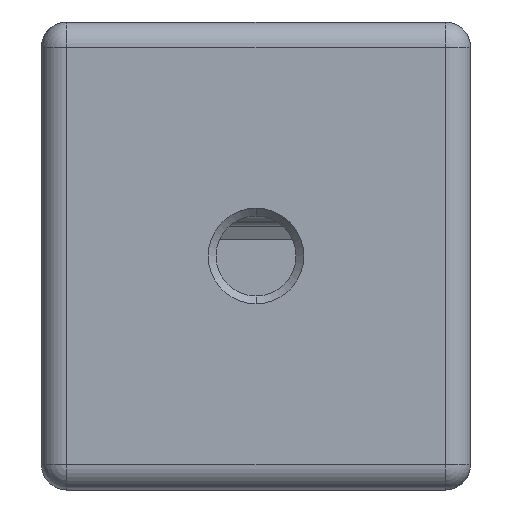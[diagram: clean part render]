
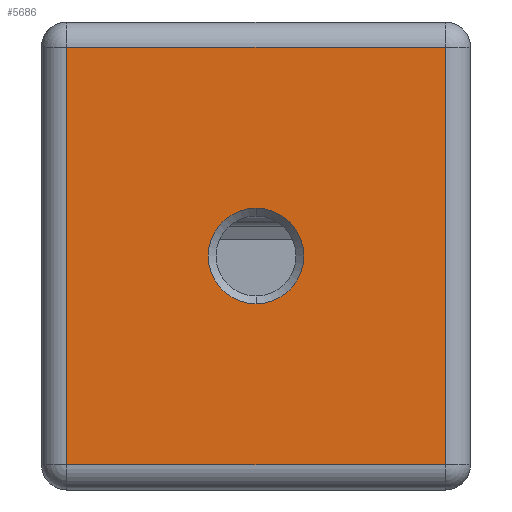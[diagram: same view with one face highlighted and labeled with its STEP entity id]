
A CAD part, front view. The second image highlights one B-rep face of the part: STEP entity #5686.
In plain terms, the highlighted planar face has unit normal (0, -1, 0).
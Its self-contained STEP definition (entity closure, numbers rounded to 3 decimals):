
#209 = DIRECTION ( 'NONE',  ( 0., 0., -1. ) ) ;
#210 = DIRECTION ( 'NONE',  ( 0., 1., 0. ) ) ;
#211 = CARTESIAN_POINT ( 'NONE',  ( -180.891, -628.375, 3.25 ) ) ;
#214 = DIRECTION ( 'NONE',  ( 0., 0., -1. ) ) ;
#215 = CARTESIAN_POINT ( 'NONE',  ( -229.391, -628.375, -56.75 ) ) ;
#216 = DIRECTION ( 'NONE',  ( -1., 0., 0. ) ) ;
#218 = CARTESIAN_POINT ( 'NONE',  ( -356.825, -628.375, 56.75 ) ) ;
#222 = DIRECTION ( 'NONE',  ( 0., 0., 1. ) ) ;
#223 = CARTESIAN_POINT ( 'NONE',  ( -132.391, -628.375, 63.25 ) ) ;
#227 = DIRECTION ( 'NONE',  ( 1., 0., 0. ) ) ;
#229 = CARTESIAN_POINT ( 'NONE',  ( -356.825, -628.375, -50.25 ) ) ;
#290 = DIRECTION ( 'NONE',  ( 0., 0., -1. ) ) ;
#291 = DIRECTION ( 'NONE',  ( 0., 1., 0. ) ) ;
#292 = CARTESIAN_POINT ( 'NONE',  ( -180.891, -628.375, 3.25 ) ) ;
#490 = CARTESIAN_POINT ( 'NONE',  ( -132.391, -628.375, -50.25 ) ) ;
#516 = CARTESIAN_POINT ( 'NONE',  ( -180.891, -628.375, -9. ) ) ;
#524 = CARTESIAN_POINT ( 'NONE',  ( -180.891, -628.375, 15.5 ) ) ;
#1082 = CARTESIAN_POINT ( 'NONE',  ( -229.391, -628.375, -50.25 ) ) ;
#1268 = CARTESIAN_POINT ( 'NONE',  ( -229.391, -628.375, 56.75 ) ) ;
#1577 = EDGE_LOOP ( 'NONE', ( #19646, #19643, #19642, #19623 ) ) ;
#1878 = EDGE_LOOP ( 'NONE', ( #19645, #19644 ) ) ;
#2309 = VERTEX_POINT ( 'NONE', #1268 ) ;
#2327 = VERTEX_POINT ( 'NONE', #1082 ) ;
#2437 = VERTEX_POINT ( 'NONE', #490 ) ;
#2454 = VERTEX_POINT ( 'NONE', #516 ) ;
#2493 = VERTEX_POINT ( 'NONE', #524 ) ;
#2894 = EDGE_CURVE ( 'NONE', #2454, #2493, #20039, .T. ) ;
#2914 = EDGE_CURVE ( 'NONE', #2327, #2437, #20491, .T. ) ;
#2915 = EDGE_CURVE ( 'NONE', #2437, #19689, #20267, .T. ) ;
#2916 = EDGE_CURVE ( 'NONE', #19689, #2309, #20274, .T. ) ;
#2917 = EDGE_CURVE ( 'NONE', #2309, #2327, #19912, .T. ) ;
#2918 = EDGE_CURVE ( 'NONE', #2493, #2454, #20054, .T. ) ;
#5686 = ADVANCED_FACE ( 'NONE', ( #18494, #18391 ), #9154, .T. ) ;
#6855 = AXIS2_PLACEMENT_3D ( 'NONE', #9155, #9156, #9157 ) ;
#7580 = AXIS2_PLACEMENT_3D ( 'NONE', #292, #291, #290 ) ;
#7588 = AXIS2_PLACEMENT_3D ( 'NONE', #211, #210, #209 ) ;
#9154 = PLANE ( 'NONE',  #6855 ) ;
#9155 = CARTESIAN_POINT ( 'NONE',  ( -356.825, -628.375, 63.25 ) ) ;
#9156 = DIRECTION ( 'NONE',  ( 0., -1., 0. ) ) ;
#9157 = DIRECTION ( 'NONE',  ( 0., 0., -1. ) ) ;
#12885 = CARTESIAN_POINT ( 'NONE',  ( -132.391, -628.375, 56.75 ) ) ;
#18391 = FACE_BOUND ( 'NONE', #1878, .T. ) ;
#18494 = FACE_OUTER_BOUND ( 'NONE', #1577, .T. ) ;
#19623 = ORIENTED_EDGE ( 'NONE', *, *, #2917, .T. ) ;
#19642 = ORIENTED_EDGE ( 'NONE', *, *, #2916, .T. ) ;
#19643 = ORIENTED_EDGE ( 'NONE', *, *, #2915, .T. ) ;
#19644 = ORIENTED_EDGE ( 'NONE', *, *, #2918, .T. ) ;
#19645 = ORIENTED_EDGE ( 'NONE', *, *, #2894, .T. ) ;
#19646 = ORIENTED_EDGE ( 'NONE', *, *, #2914, .T. ) ;
#19689 = VERTEX_POINT ( 'NONE', #12885 ) ;
#19911 = VECTOR ( 'NONE', #216, 1000. ) ;
#19912 = LINE ( 'NONE', #215, #20224 ) ;
#20039 = CIRCLE ( 'NONE', #7580, 12.25 ) ;
#20054 = CIRCLE ( 'NONE', #7588, 12.25 ) ;
#20224 = VECTOR ( 'NONE', #214, 1000. ) ;
#20248 = VECTOR ( 'NONE', #222, 1000. ) ;
#20267 = LINE ( 'NONE', #223, #20248 ) ;
#20274 = LINE ( 'NONE', #218, #19911 ) ;
#20491 = LINE ( 'NONE', #229, #20611 ) ;
#20611 = VECTOR ( 'NONE', #227, 1000. ) ;
